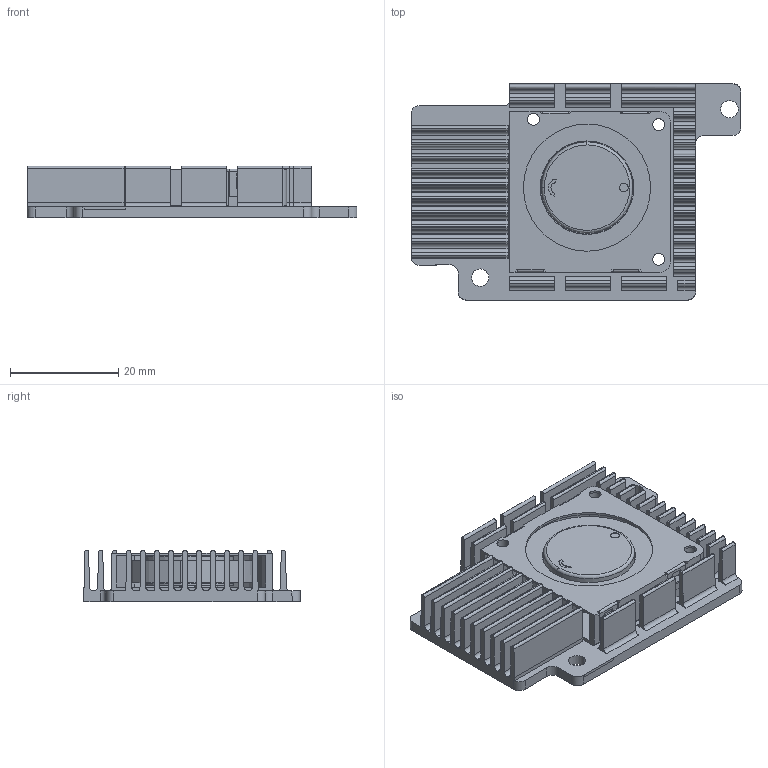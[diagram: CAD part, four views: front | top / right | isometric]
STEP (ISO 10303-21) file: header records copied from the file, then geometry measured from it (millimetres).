
FILE_DESCRIPTION((''),'2;1');
FILE_NAME('5C_6540B','2024-06-14T10:48:19',('admin'),(''),'CREO PARAMETRIC BY PTC INC, 2024063','CREO PARAMETRIC BY PTC INC, 2024063','');
FILE_SCHEMA(('CONFIG_CONTROL_DESIGN','SHAPE_APPEARANCE_LAYERS_GROUPS'));
Length unit declared in the file: millimetre
Products named in the file (1): 5C_6540B
Bounding box: 61 x 40 x 9.5 mm (x, y, z)
Volume: 9252.6 mm3; surface area: 14522.5 mm2
Topology: 2 solids, 6 shells, 1102 faces, 3358 edges, 2250 vertices
Faces by surface type: plane 513, cylinder 468, torus 65, cone 54, sphere 2
Entity records: 41899 total; most frequent: CARTESIAN_POINT 7147, DIRECTION 6917, ORIENTED_EDGE 6712, EDGE_CURVE 3356, AXIS2_PLACEMENT_3D 2573, VERTEX_POINT 2250, VECTOR 1771, LINE 1771
